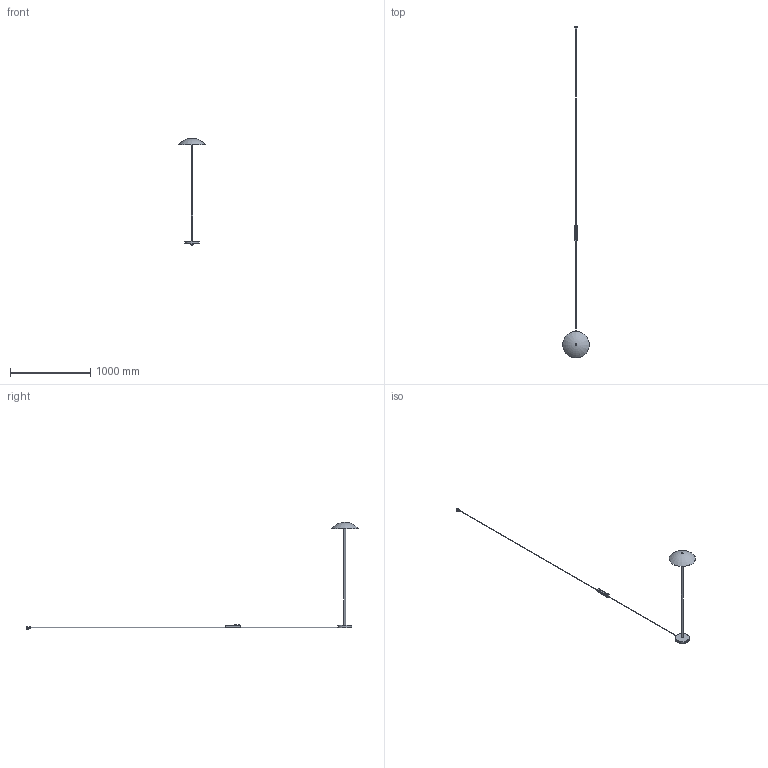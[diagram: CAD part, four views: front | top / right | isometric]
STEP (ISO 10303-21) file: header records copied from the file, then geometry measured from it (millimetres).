
FILE_DESCRIPTION(/* description */ (''),/* implementation_level */ '2;1');
FILE_NAME(/* name */ 'Arundel Floor Lamp (V1), simplified CAD v5.step',/* time_stamp */ '2024-01-19T10:29:43-05:00',/* author */ (''),/* organization */ (''),/* preprocessor_version */ 'ST-DEVELOPER v20',/* originating_system */ 'Autodesk Translation Framework v12.14.0.127',/* authorisation */ '');
FILE_SCHEMA (('AUTOMOTIVE_DESIGN { 1 0 10303 214 3 1 1 }'));
Length unit declared in the file: millimetre
Products named in the file (14): Arundel Floor Lamp (V1), simplified CAD; Inline Push Dimmer_ Short (INL-PSH-DMR-XXX) (V1); Inner Dimmer Silicone Pad; Inline Push Dimmer Base Plate; Inline Push Dimmer Cover; Inline Dimmer; Push Switch; Floor Rotary Knob; Floor Push Knob; 4/40 x 1/4" L Countersunk Screw (MM-96640A334); 4/40 x 1/4" L Pan Head Screw (MM-91772A106); Inline Dimmer Strain Relief; 8 ft Plug / Black; 4ft cord (4-XXX)
Assembly tree (18 placements, depth 3):
  Arundel Floor Lamp (V1), simplified CAD
    Inline Push Dimmer_ Short (INL-PSH-DMR-XXX) (V1)
      Inner Dimmer Silicone Pad
      Inline Dimmer Strain Relief  x2
      Inline Push Dimmer Base Plate
      Inline Push Dimmer Cover
      Inline Dimmer
      Push Switch
      Floor Rotary Knob
      Floor Push Knob
      4/40 x 1/4" L Countersunk Screw (MM-96640A334)  x4
      4/40 x 1/4" L Pan Head Screw (MM-91772A106)  x2
      8 ft Plug / Black
      4ft cord (4-XXX)
Bounding box: 331.05 x 4136.03 x 1343.65 mm (x, y, z)
Volume: 1819967.4 mm3; surface area: 538989.1 mm2
Topology: 19 solids, 20 shells, 769 faces, 2011 edges, 1324 vertices
Faces by surface type: plane 346, cylinder 308, cone 63, bspline 27, torus 16, sphere 9
Full cylindrical faces by diameter (mm): 1.986 x24, 2.02 x18, 2.261 x8, 2.276 x1, 2.282 x2, 2.845 x48, 3 x2, 3.5 x4, 3.6 x4, 4.87 x1, 5.563 x2, 6 x4, 6.5 x2, 6.8 x2, 7 x2, 9.2 x1, 10 x4, 10.1 x1, 12 x1, 12.5 x1, 13 x1, 13.997 x1, 14 x1, 16.947 x3, 17 x2, 17.7 x1, 18 x1, 19.956 x1, 20 x1, 26.5 x1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
Entity records: 21982 total; most frequent: CARTESIAN_POINT 7963, DIRECTION 2881, ORIENTED_EDGE 2806, EDGE_CURVE 1403, AXIS2_PLACEMENT_3D 1069, VERTEX_POINT 931, LINE 743, VECTOR 743
